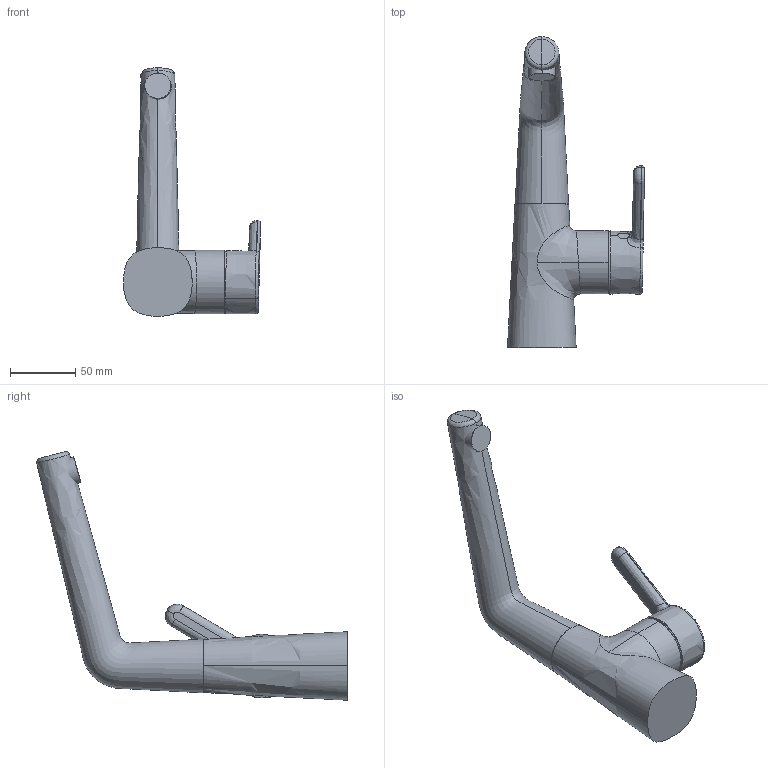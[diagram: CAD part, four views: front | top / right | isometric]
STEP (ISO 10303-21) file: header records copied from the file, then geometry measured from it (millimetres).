
FILE_DESCRIPTION (( 'STEP AP203' ), '1' );
FILE_NAME ('3006F(2017)+51492283.STEP', '2017-11-24T12:21:23', ( '' ), ( '' ), 'SwSTEP 2.0', 'SolidWorks 2016', '' );
FILE_SCHEMA (( 'CONFIG_CONTROL_DESIGN' ));
Length unit declared in the file: millimetre
Products named in the file (1): 3006F(2017)+51492283
Bounding box: 105.07 x 238.21 x 190.53 mm (x, y, z)
Surface area: 69000.1 mm2 (no closed solid volume)
Topology: 0 solids, 6 shells, 55 faces, 126 edges, 83 vertices
Faces by surface type: bspline 29, plane 13, cylinder 6, torus 4, sphere 3
Entity records: 10918 total; most frequent: CARTESIAN_POINT 9830, ORIENTED_EDGE 248, DIRECTION 136, EDGE_CURVE 124, VERTEX_POINT 82, B_SPLINE_CURVE_WITH_KNOTS 71, AXIS2_PLACEMENT_3D 59, EDGE_LOOP 56
